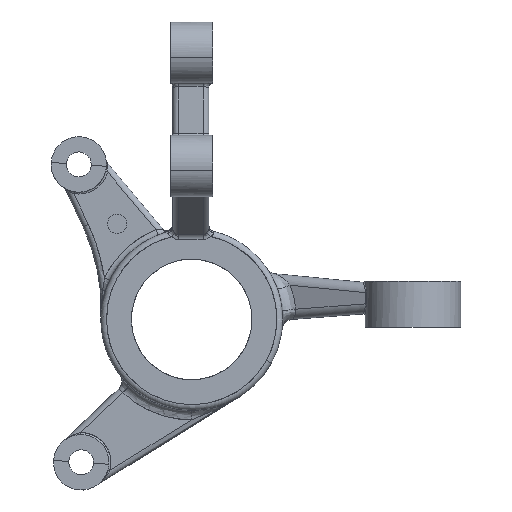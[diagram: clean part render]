
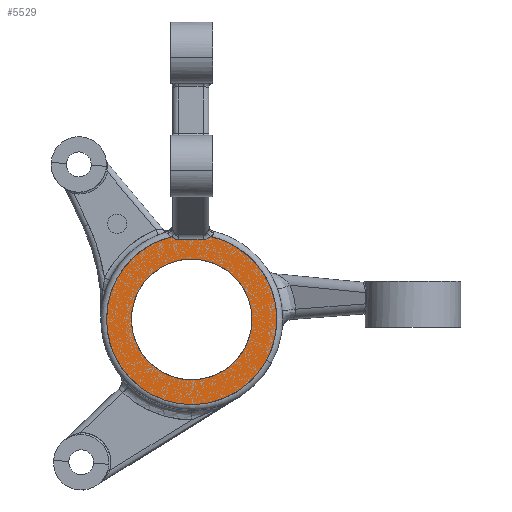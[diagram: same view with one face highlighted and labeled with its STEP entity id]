
A CAD part, front view. The second image highlights one B-rep face of the part: STEP entity #5529.
In plain terms, the highlighted planar face has unit normal (0, -1, 0).
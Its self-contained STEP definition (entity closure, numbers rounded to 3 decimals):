
#4472=PLANE('',#31370);
#4624=FACE_BOUND('',#11428,.T.);
#4749=B_SPLINE_CURVE_WITH_KNOTS('',3,(#16184,#16186,#16187,#16188,#16189,#16190,#16191,#16192,#16193,#16194,#16195,#16196,#16197,#16198,#16199,#16200,#16201,#16185),.UNSPECIFIED.,.F.,.U.,(4,2,2,2,2,2,2,2,4),(0.,0.125,0.25,0.375,0.5,0.625,0.75,0.875,1.),.UNSPECIFIED.);
#4750=B_SPLINE_CURVE_WITH_KNOTS('',5,(#16207,#16208,#16209,#16210,#16211,#16212,#16213,#16214,#16206),.UNSPECIFIED.,.F.,.U.,(6,3,6),(0.,0.635,1.),.UNSPECIFIED.);
#4751=B_SPLINE_CURVE_WITH_KNOTS('',5,(#16203,#16216,#16217,#16218,#16219,#16220,#16221,#16222,#16223,#16224,#16225,#16226),.UNSPECIFIED.,.F.,.U.,(6,3,3,6),(0.,0.009,0.761,1.),.UNSPECIFIED.);
#5529=ADVANCED_FACE('40000_11111',(#6008,#4624),#4472,.T.);
#6008=FACE_OUTER_BOUND('',#11427,.T.);
#6462=CIRCLE('',#31371,44.5);
#6463=CIRCLE('',#31372,44.5);
#6464=CIRCLE('',#31373,44.5);
#6465=CIRCLE('',#31374,31.5);
#7069=ORIENTED_EDGE('',*,*,#9146,.T.);
#7070=ORIENTED_EDGE('',*,*,#9147,.T.);
#7071=ORIENTED_EDGE('',*,*,#9148,.T.);
#7072=ORIENTED_EDGE('',*,*,#9149,.F.);
#7073=ORIENTED_EDGE('',*,*,#9150,.T.);
#7074=ORIENTED_EDGE('',*,*,#9151,.F.);
#7075=ORIENTED_EDGE('',*,*,#9152,.T.);
#7076=ORIENTED_EDGE('',*,*,#9144,.F.);
#9144=EDGE_CURVE('237',#10805,#10806,#4749,.T.);
#9146=EDGE_CURVE('239',#10807,#10808,#6462,.T.);
#9147=EDGE_CURVE('240',#10808,#10809,#6463,.T.);
#9148=EDGE_CURVE('241',#10809,#10810,#6464,.T.);
#9149=EDGE_CURVE('242',#10811,#10810,#4750,.T.);
#9150=EDGE_CURVE('243',#10811,#10812,#10439,.T.);
#9151=EDGE_CURVE('244',#10807,#10812,#4751,.T.);
#9152=EDGE_CURVE('245',#10805,#10806,#6465,.T.);
#10154=VECTOR('',#32085,13.);
#10439=LINE('',#16207,#10154);
#10805=VERTEX_POINT('156',#16184);
#10806=VERTEX_POINT('157',#16185);
#10807=VERTEX_POINT('158',#16203);
#10808=VERTEX_POINT('159',#16204);
#10809=VERTEX_POINT('160',#16205);
#10810=VERTEX_POINT('161',#16206);
#10811=VERTEX_POINT('162',#16207);
#10812=VERTEX_POINT('163',#16215);
#11427=EDGE_LOOP('',(#7069,#7070,#7071,#7072,#7073,#7074));
#11428=EDGE_LOOP('',(#7075,#7076));
#16183=CARTESIAN_POINT('',(200.,950.,1403.));
#16184=CARTESIAN_POINT('',(227.644,950.,1387.898));
#16185=CARTESIAN_POINT('',(172.356,950.,1418.102));
#16186=CARTESIAN_POINT('',(229.621,950.,1391.517));
#16187=CARTESIAN_POINT('',(230.877,950.,1395.527));
#16188=CARTESIAN_POINT('',(231.76,950.,1403.726));
#16189=CARTESIAN_POINT('',(231.387,950.,1407.912));
#16190=CARTESIAN_POINT('',(229.065,950.,1415.825));
#16191=CARTESIAN_POINT('',(227.118,950.,1419.549));
#16192=CARTESIAN_POINT('',(221.945,950.,1425.971));
#16193=CARTESIAN_POINT('',(218.721,950.,1428.667));
#16194=CARTESIAN_POINT('',(211.483,950.,1432.621));
#16195=CARTESIAN_POINT('',(207.473,950.,1433.877));
#16196=CARTESIAN_POINT('',(199.274,950.,1434.76));
#16197=CARTESIAN_POINT('',(195.088,950.,1434.387));
#16198=CARTESIAN_POINT('',(187.175,950.,1432.065));
#16199=CARTESIAN_POINT('',(183.451,950.,1430.118));
#16200=CARTESIAN_POINT('',(177.029,950.,1424.945));
#16201=CARTESIAN_POINT('',(174.333,950.,1421.721));
#16202=CARTESIAN_POINT('',(78.55,950.,1428.83));
#16203=CARTESIAN_POINT('',(189.438,950.,1446.228));
#16204=CARTESIAN_POINT('',(160.948,950.,1424.335));
#16205=CARTESIAN_POINT('',(239.052,950.,1381.665));
#16206=CARTESIAN_POINT('',(209.76,950.,1446.416));
#16207=CARTESIAN_POINT('',(206.,950.,1444.779));
#16208=CARTESIAN_POINT('',(206.545,950.,1444.779));
#16209=CARTESIAN_POINT('',(207.091,950.,1444.856));
#16210=CARTESIAN_POINT('',(207.617,950.,1445.009));
#16211=CARTESIAN_POINT('',(208.397,950.,1445.35));
#16212=CARTESIAN_POINT('',(209.085,950.,1445.82));
#16213=CARTESIAN_POINT('',(209.324,950.,1446.007));
#16214=CARTESIAN_POINT('',(209.549,950.,1446.206));
#16215=CARTESIAN_POINT('',(193.,950.,1444.779));
#16216=CARTESIAN_POINT('',(189.443,950.,1446.224));
#16217=CARTESIAN_POINT('',(189.448,950.,1446.219));
#16218=CARTESIAN_POINT('',(189.453,950.,1446.214));
#16219=CARTESIAN_POINT('',(189.885,950.,1445.823));
#16220=CARTESIAN_POINT('',(190.368,950.,1445.478));
#16221=CARTESIAN_POINT('',(190.895,950.,1445.194));
#16222=CARTESIAN_POINT('',(191.643,950.,1444.924));
#16223=CARTESIAN_POINT('',(192.427,950.,1444.808));
#16224=CARTESIAN_POINT('',(192.618,950.,1444.789));
#16225=CARTESIAN_POINT('',(192.809,950.,1444.779));
#16226=CARTESIAN_POINT('',(193.,950.,1444.779));
#31370=AXIS2_PLACEMENT_3D('',#16202,#32060,#32116);
#31371=AXIS2_PLACEMENT_3D('',#16183,#32060,#32117);
#31372=AXIS2_PLACEMENT_3D('',#16183,#32060,#32065);
#31373=AXIS2_PLACEMENT_3D('',#16183,#32060,#32061);
#31374=AXIS2_PLACEMENT_3D('',#16183,#32064,#32061);
#32060=DIRECTION('',(0.,-1.,0.));
#32061=DIRECTION('',(0.878,0.,-0.479));
#32064=DIRECTION('',(0.,1.,0.));
#32065=DIRECTION('',(-0.878,0.,0.479));
#32085=DIRECTION('',(-1.,0.,0.));
#32116=DIRECTION('',(0.282,0.,-0.96));
#32117=DIRECTION('',(-0.237,0.,0.971));
